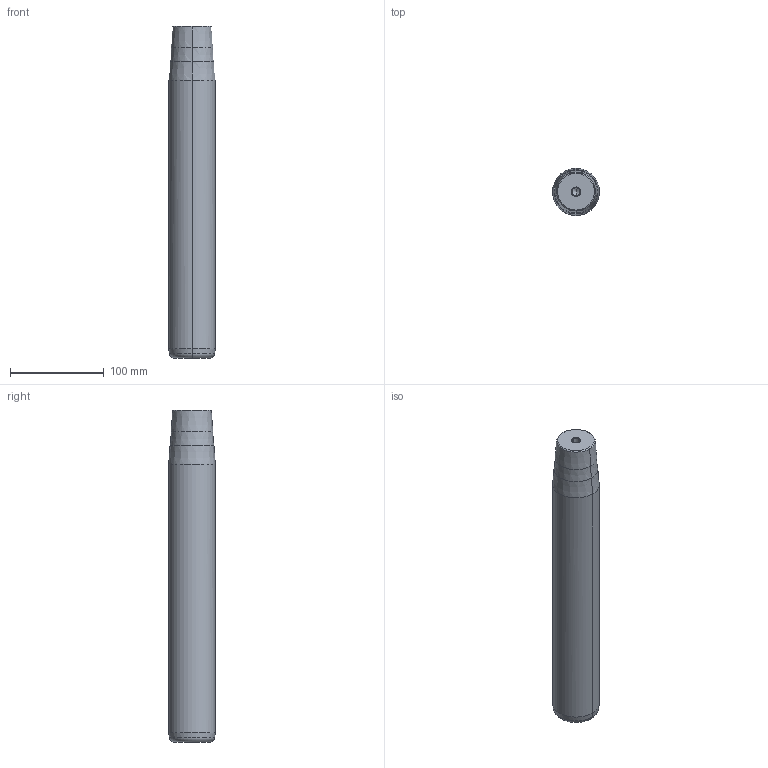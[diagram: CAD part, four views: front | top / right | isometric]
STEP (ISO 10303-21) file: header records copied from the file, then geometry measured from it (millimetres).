
FILE_DESCRIPTION(('CATIA V5 STEP Exchange'),'2;1');
FILE_NAME('C:\Users\Utente\Desktop\IO LAVORO\3D X SITO CF\X SITO\722\722-50x315x355.stp','2021-01-07T19:37:00+00:00',('none'),('none'),'CATIA Version 5 Release 20 GA (IN-10)','CATIA V5 STEP AP203','none');
FILE_SCHEMA(('CONFIG_CONTROL_DESIGN'));
Length unit declared in the file: millimetre
Products named in the file (1): 722-50x315x355
Bounding box: 50 x 50 x 355 mm (x, y, z)
Volume: 673320.7 mm3; surface area: 59162.2 mm2
Topology: 1 solids, 1 shells, 32 faces, 98 edges, 66 vertices
Faces by surface type: cone 22, cylinder 6, plane 2, torus 2
Entity records: 1166 total; most frequent: CARTESIAN_POINT 279, ORIENTED_EDGE 188, DIRECTION 148, EDGE_CURVE 94, AXIS2_PLACEMENT_3D 89, VERTEX_POINT 66, CIRCLE 56, EDGE_LOOP 34
